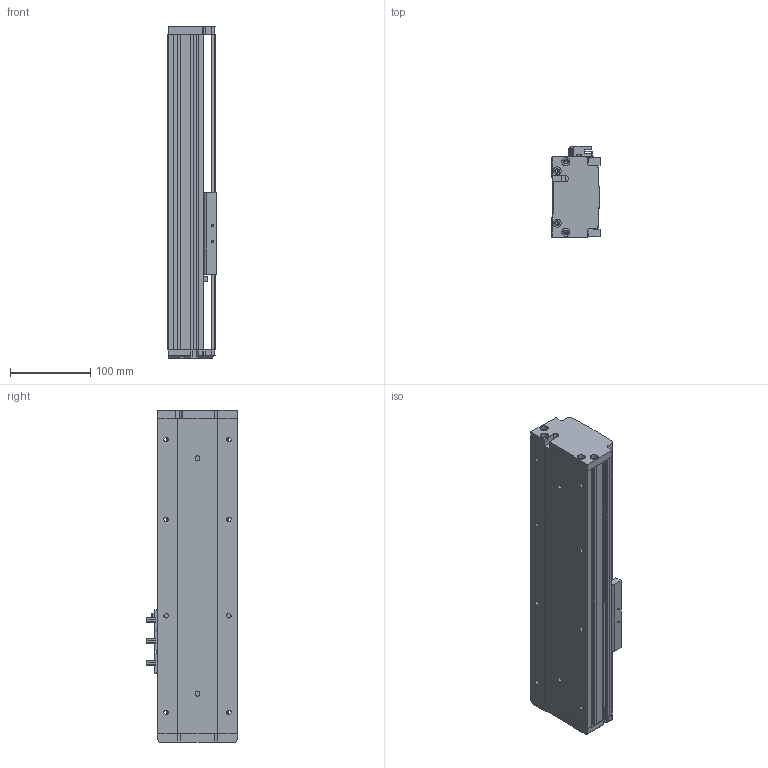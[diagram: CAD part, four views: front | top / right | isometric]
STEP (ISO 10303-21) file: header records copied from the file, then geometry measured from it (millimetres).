
FILE_DESCRIPTION (( 'STEP AP214' ), '1' );
FILE_NAME ('KSD100S-S50-M-CM.STEP', '2019-08-29T08:17:24', ( '微软用户' ), ( '微软中国' ), 'SwSTEP 2.0', 'SolidWorks 2014', '' );
FILE_SCHEMA (( 'AUTOMOTIVE_DESIGN' ));
Length unit declared in the file: millimetre
Products named in the file (8): 覜茼え100遵圉猾敕; U倰嫖萇EEㄜSX672; 100宽防尘板丝杆50行程电机内装; 100宽马达安装板-电机内装; 100宽滚珠螺姆安装板半封闭; 100遵傷啣; 100宽底板半封闭丝杆50行程电机内装; KSD100S-S50-M-CM
Assembly tree (9 placements, depth 2):
  KSD100S-S50-M-CM
    100宽底板半封闭丝杆50行程电机内装
    100遵傷啣
    100宽滚珠螺姆安装板半封闭
    100宽马达安装板-电机内装
    100宽防尘板丝杆50行程电机内装
    U倰嫖萇EEㄜSX672  x3
    覜茼え100遵圉猾敕
Bounding box: 60 x 113.7 x 413 mm (x, y, z)
Volume: 909994.4 mm3; surface area: 328293.6 mm2
Topology: 9 solids, 9 shells, 911 faces, 2574 edges, 1643 vertices
Faces by surface type: plane 428, cylinder 398, cone 85
Entity records: 30136 total; most frequent: CARTESIAN_POINT 5576, DIRECTION 3967, ORIENTED_EDGE 3880, EDGE_CURVE 1940, AXIS2_PLACEMENT_3D 1398, VERTEX_POINT 1267, VECTOR 1171, LINE 1171
